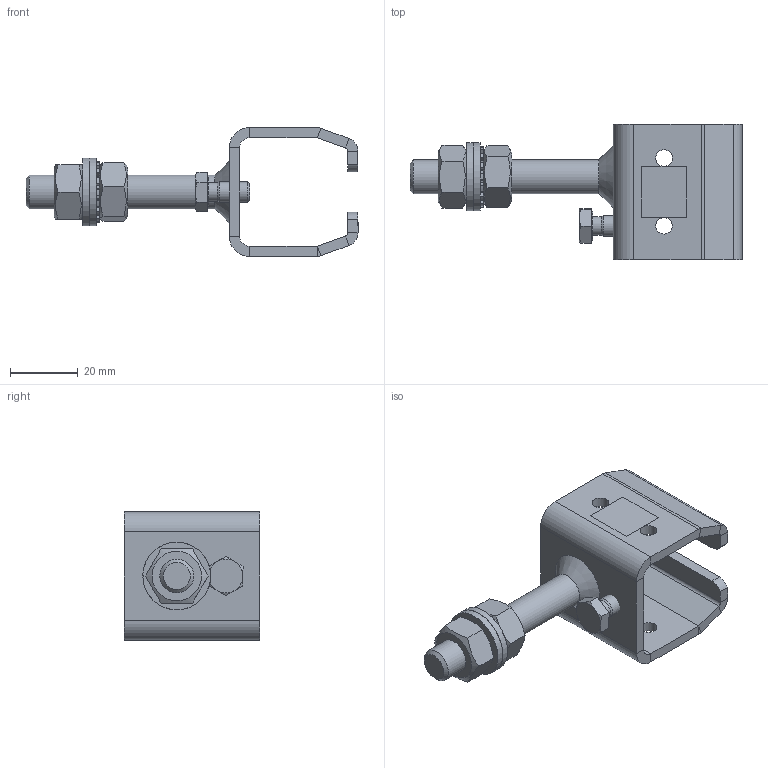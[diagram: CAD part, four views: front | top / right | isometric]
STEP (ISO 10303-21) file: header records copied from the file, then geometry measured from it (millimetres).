
FILE_DESCRIPTION(/* description */ ('Muffe H/S Nr.0'),/* implementation_level */ '2;1');
FILE_NAME(/* name */ 'Q:\sge-ma\Produktmanagement-STB\STB\Workspace\stp\010335505.stp',/* time_stamp */ '2015-06-19T10:42:01+02:00',/* author */ ('avschreier'),/* organization */ (''),/* preprocessor_version */ 'ST-DEVELOPER v15.6',/* originating_system */ 'Autodesk Inventor 2015',/* authorisation */ '');
FILE_SCHEMA (('CONFIG_CONTROL_DESIGN'));
Length unit declared in the file: millimetre
Products named in the file (8): 010335505_Schweißnähte; 000302228; 335140000; DIN 933 - M6  x 12; DIN_EN_ISO_4032-M10_en; DIN_EN_ISO_7090-10,5_en; DIN_6798-A_10,5_en; 010335505
Bounding box: 98 x 40 x 38 mm (x, y, z)
Volume: 23096.7 mm3; surface area: 17001 mm2
Topology: 9 solids, 9 shells, 238 faces, 592 edges, 373 vertices
Faces by surface type: plane 121, cylinder 98, cone 19
Full cylindrical faces by diameter (mm): 4.917 x3, 5 x3, 5.459 x1, 6 x1, 8.376 x2, 8.7 x1, 10 x2, 10.5 x3, 20 x2
Entity records: 6664 total; most frequent: DIRECTION 1184, CARTESIAN_POINT 1156, ORIENTED_EDGE 1056, EDGE_CURVE 526, AXIS2_PLACEMENT_3D 444, VERTEX_POINT 344, LINE 296, VECTOR 296
